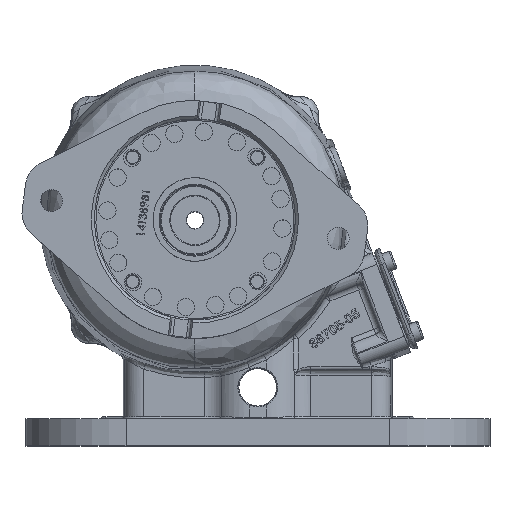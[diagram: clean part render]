
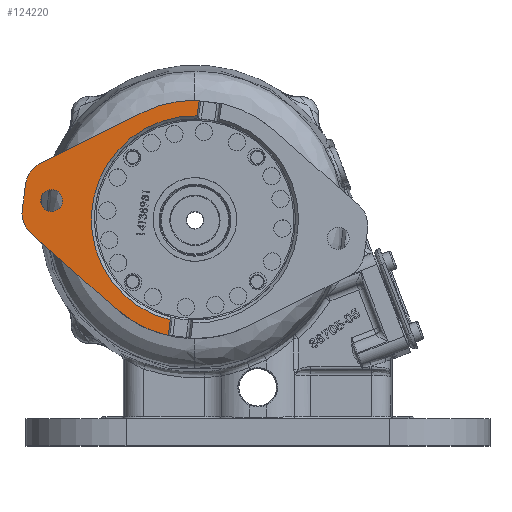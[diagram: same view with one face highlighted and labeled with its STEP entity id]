
A CAD part, top view. The second image highlights one B-rep face of the part: STEP entity #124220.
In plain terms, the highlighted planar face has unit normal (0, 0, 1) as drawn and (0, 0, -1) by its records, which use the part's own axes.
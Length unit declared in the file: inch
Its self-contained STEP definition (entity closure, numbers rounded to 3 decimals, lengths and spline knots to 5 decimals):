
#1335 = AXIS2_PLACEMENT_3D ( 'NONE', #6427, #91649, #17108 ) ;
#1634 = VECTOR ( 'NONE', #40162, 39.37008 ) ;
#2520 = CARTESIAN_POINT ( 'NONE',  ( 1.34011, -1.95635, 0.07 ) ) ;
#3539 = VECTOR ( 'NONE', #77002, 39.37008 ) ;
#4899 = CARTESIAN_POINT ( 'NONE',  ( 1.34011, 1.95635, 0.07 ) ) ;
#5635 = DIRECTION ( 'NONE',  ( -1., 0., 0. ) ) ;
#6427 = CARTESIAN_POINT ( 'NONE',  ( 0., 0., 0.07 ) ) ;
#8233 = CARTESIAN_POINT ( 'NONE',  ( 2.875, 0.25, 0.07 ) ) ;
#8587 = EDGE_CURVE ( 'NONE', #86060, #105362, #77093, .T. ) ;
#8651 = ORIENTED_EDGE ( 'NONE', *, *, #55413, .F. ) ;
#8819 = AXIS2_PLACEMENT_3D ( 'NONE', #117949, #153953, #129414 ) ;
#11550 = DIRECTION ( 'NONE',  ( 0., 0., -1. ) ) ;
#12850 = DIRECTION ( 'NONE',  ( -1., 0., 0. ) ) ;
#13288 = CARTESIAN_POINT ( 'NONE',  ( 0.225, 2.5484, 0.07 ) ) ;
#17108 = DIRECTION ( 'NONE',  ( -1., 0., 0. ) ) ;
#18037 = ORIENTED_EDGE ( 'NONE', *, *, #59734, .T. ) ;
#18630 = CIRCLE ( 'NONE', #44662, 0.2185 ) ;
#20674 = AXIS2_PLACEMENT_3D ( 'NONE', #136490, #23513, #12850 ) ;
#22136 = CARTESIAN_POINT ( 'NONE',  ( 3.43133, -0.25, 0.07 ) ) ;
#22239 = CARTESIAN_POINT ( 'NONE',  ( 2.875, 0., 0.07 ) ) ;
#23513 = DIRECTION ( 'NONE',  ( 0., 0., -1. ) ) ;
#25256 = VERTEX_POINT ( 'NONE', #35234 ) ;
#27248 = CARTESIAN_POINT ( 'NONE',  ( 1.34082, 1.95587, 0.07 ) ) ;
#28907 = ORIENTED_EDGE ( 'NONE', *, *, #118424, .T. ) ;
#29286 = CARTESIAN_POINT ( 'NONE',  ( 1.34082, -1.95587, 0.07 ) ) ;
#30479 = B_SPLINE_CURVE_WITH_KNOTS ( 'NONE', 3,
 ( #74790, #114895, #73975, #27248 ),
 .UNSPECIFIED., .F., .F.,
 ( 4, 4 ),
 ( 0., 0.00004 ),
 .UNSPECIFIED. ) ;
#32036 = VECTOR ( 'NONE', #50932, 39.37008 ) ;
#33593 = DIRECTION ( 'NONE',  ( -1., 0., 0. ) ) ;
#34167 = CARTESIAN_POINT ( 'NONE',  ( 1.34082, -1.95587, 0.07 ) ) ;
#34290 = CARTESIAN_POINT ( 'NONE',  ( 3.1861, -0.71122, 0.07 ) ) ;
#35234 = CARTESIAN_POINT ( 'NONE',  ( 0.225, 2.04868, 0.07 ) ) ;
#36579 = PLANE ( 'NONE',  #20674 ) ;
#40162 = DIRECTION ( 'NONE',  ( -0.829, -0.559, 0. ) ) ;
#42354 = EDGE_LOOP ( 'NONE', ( #8651, #93251, #67881, #28907, #117016, #18037, #156670, #44692, #62945, #115715, #46999, #157592 ) ) ;
#43926 = AXIS2_PLACEMENT_3D ( 'NONE', #8233, #120453, #33593 ) ;
#44068 = CARTESIAN_POINT ( 'NONE',  ( 1.33941, -1.95683, 0.07 ) ) ;
#44662 = AXIS2_PLACEMENT_3D ( 'NONE', #22239, #11550, #62306 ) ;
#44692 = ORIENTED_EDGE ( 'NONE', *, *, #144012, .T. ) ;
#46999 = ORIENTED_EDGE ( 'NONE', *, *, #103826, .T. ) ;
#47137 = CARTESIAN_POINT ( 'NONE',  ( 3.43133, 0.25, 0.07 ) ) ;
#47257 = FACE_BOUND ( 'NONE', #148074, .T. ) ;
#48753 = EDGE_CURVE ( 'NONE', #102630, #124348, #61397, .T. ) ;
#50282 = CARTESIAN_POINT ( 'NONE',  ( 1.34082, 1.95587, 0.07 ) ) ;
#50297 = CARTESIAN_POINT ( 'NONE',  ( 3.0935, 0., 0.07 ) ) ;
#50932 = DIRECTION ( 'NONE',  ( 0., -1., 0. ) ) ;
#54865 = CARTESIAN_POINT ( 'NONE',  ( 0.225, 2.36063, 0.07 ) ) ;
#55043 = VERTEX_POINT ( 'NONE', #96383 ) ;
#55413 = EDGE_CURVE ( 'NONE', #141602, #124348, #84702, .T. ) ;
#56913 = CIRCLE ( 'NONE', #101339, 2.37133 ) ;
#59734 = EDGE_CURVE ( 'NONE', #124798, #91064, #67134, .T. ) ;
#61002 = EDGE_CURVE ( 'NONE', #63941, #155641, #149992, .T. ) ;
#61397 = CIRCLE ( 'NONE', #1335, 2.37133 ) ;
#61579 = B_SPLINE_CURVE_WITH_KNOTS ( 'NONE', 3,
 ( #34167, #130908, #121027, #44068 ),
 .UNSPECIFIED., .F., .F.,
 ( 4, 4 ),
 ( 0., 0.00004 ),
 .UNSPECIFIED. ) ;
#62306 = DIRECTION ( 'NONE',  ( -1., 0., 0. ) ) ;
#62945 = ORIENTED_EDGE ( 'NONE', *, *, #61002, .T. ) ;
#63286 = VERTEX_POINT ( 'NONE', #130540 ) ;
#63941 = VERTEX_POINT ( 'NONE', #22136 ) ;
#66058 = CARTESIAN_POINT ( 'NONE',  ( 0., 0., 0.07 ) ) ;
#67134 = LINE ( 'NONE', #4899, #3539 ) ;
#67445 = CIRCLE ( 'NONE', #43926, 0.55633 ) ;
#67881 = ORIENTED_EDGE ( 'NONE', *, *, #147176, .F. ) ;
#70094 = EDGE_CURVE ( 'NONE', #55043, #124798, #30479, .T. ) ;
#71290 = CIRCLE ( 'NONE', #115840, 2.061 ) ;
#73492 = CARTESIAN_POINT ( 'NONE',  ( 0.225, -2.04868, 0.07 ) ) ;
#73975 = CARTESIAN_POINT ( 'NONE',  ( 1.34035, 1.95619, 0.07 ) ) ;
#74790 = CARTESIAN_POINT ( 'NONE',  ( 1.33941, 1.95683, 0.07 ) ) ;
#75024 = ORIENTED_EDGE ( 'NONE', *, *, #8587, .F. ) ;
#77002 = DIRECTION ( 'NONE',  ( 0.829, -0.559, 0. ) ) ;
#77093 = CIRCLE ( 'NONE', #82366, 0.2185 ) ;
#82366 = AXIS2_PLACEMENT_3D ( 'NONE', #104753, #117862, #5635 ) ;
#84605 = LINE ( 'NONE', #13288, #32036 ) ;
#84702 = LINE ( 'NONE', #143735, #127007 ) ;
#85765 = CARTESIAN_POINT ( 'NONE',  ( 0.225, -2.36063, 0.07 ) ) ;
#86060 = VERTEX_POINT ( 'NONE', #127320 ) ;
#88974 = CARTESIAN_POINT ( 'NONE',  ( 0., 0., 0.07 ) ) ;
#91064 = VERTEX_POINT ( 'NONE', #145067 ) ;
#91649 = DIRECTION ( 'NONE',  ( 0., 0., -1. ) ) ;
#93251 = ORIENTED_EDGE ( 'NONE', *, *, #95918, .T. ) ;
#94594 = DIRECTION ( 'NONE',  ( 0., -1., 0. ) ) ;
#95918 = EDGE_CURVE ( 'NONE', #141602, #25256, #71290, .T. ) ;
#96383 = CARTESIAN_POINT ( 'NONE',  ( 1.33941, 1.95683, 0.07 ) ) ;
#97013 = VERTEX_POINT ( 'NONE', #54865 ) ;
#97103 = DIRECTION ( 'NONE',  ( 0., -1., 0. ) ) ;
#101339 = AXIS2_PLACEMENT_3D ( 'NONE', #88974, #126646, #114373 ) ;
#102630 = VERTEX_POINT ( 'NONE', #142338 ) ;
#103826 = EDGE_CURVE ( 'NONE', #159517, #102630, #61579, .T. ) ;
#104753 = CARTESIAN_POINT ( 'NONE',  ( 2.875, 0., 0.07 ) ) ;
#105362 = VERTEX_POINT ( 'NONE', #50297 ) ;
#114373 = DIRECTION ( 'NONE',  ( -1., 0., 0. ) ) ;
#114895 = CARTESIAN_POINT ( 'NONE',  ( 1.33988, 1.95651, 0.07 ) ) ;
#115715 = ORIENTED_EDGE ( 'NONE', *, *, #156273, .T. ) ;
#115840 = AXIS2_PLACEMENT_3D ( 'NONE', #66058, #116055, #153684 ) ;
#116055 = DIRECTION ( 'NONE',  ( 0., 0., 1. ) ) ;
#117016 = ORIENTED_EDGE ( 'NONE', *, *, #70094, .T. ) ;
#117862 = DIRECTION ( 'NONE',  ( 0., 0., -1. ) ) ;
#117949 = CARTESIAN_POINT ( 'NONE',  ( 2.875, -0.25, 0.07 ) ) ;
#118424 = EDGE_CURVE ( 'NONE', #97013, #55043, #56913, .T. ) ;
#120399 = EDGE_CURVE ( 'NONE', #91064, #63286, #67445, .T. ) ;
#120453 = DIRECTION ( 'NONE',  ( 0., 0., -1. ) ) ;
#121027 = CARTESIAN_POINT ( 'NONE',  ( 1.33988, -1.95651, 0.07 ) ) ;
#124220 = ADVANCED_FACE ( 'NONE', ( #47257, #135697 ), #36579, .T. ) ;
#124348 = VERTEX_POINT ( 'NONE', #85765 ) ;
#124798 = VERTEX_POINT ( 'NONE', #50282 ) ;
#126646 = DIRECTION ( 'NONE',  ( 0., 0., -1. ) ) ;
#127007 = VECTOR ( 'NONE', #94594, 39.37008 ) ;
#127320 = CARTESIAN_POINT ( 'NONE',  ( 2.6565, 0., 0.07 ) ) ;
#129414 = DIRECTION ( 'NONE',  ( -1., 0., 0. ) ) ;
#130540 = CARTESIAN_POINT ( 'NONE',  ( 3.43133, 0.25, 0.07 ) ) ;
#130908 = CARTESIAN_POINT ( 'NONE',  ( 1.34035, -1.95619, 0.07 ) ) ;
#134077 = EDGE_CURVE ( 'NONE', #105362, #86060, #18630, .T. ) ;
#135697 = FACE_OUTER_BOUND ( 'NONE', #42354, .T. ) ;
#136490 = CARTESIAN_POINT ( 'NONE',  ( 0., 0., 0.07 ) ) ;
#141602 = VERTEX_POINT ( 'NONE', #73492 ) ;
#142338 = CARTESIAN_POINT ( 'NONE',  ( 1.33941, -1.95683, 0.07 ) ) ;
#143735 = CARTESIAN_POINT ( 'NONE',  ( 0.225, -1.7234, 0.07 ) ) ;
#144012 = EDGE_CURVE ( 'NONE', #63286, #63941, #145449, .T. ) ;
#145067 = CARTESIAN_POINT ( 'NONE',  ( 3.1861, 0.71122, 0.07 ) ) ;
#145449 = LINE ( 'NONE', #47137, #149603 ) ;
#146766 = ORIENTED_EDGE ( 'NONE', *, *, #134077, .F. ) ;
#147176 = EDGE_CURVE ( 'NONE', #97013, #25256, #84605, .T. ) ;
#148074 = EDGE_LOOP ( 'NONE', ( #75024, #146766 ) ) ;
#149603 = VECTOR ( 'NONE', #97103, 39.37008 ) ;
#149992 = CIRCLE ( 'NONE', #8819, 0.55633 ) ;
#152359 = LINE ( 'NONE', #2520, #1634 ) ;
#153684 = DIRECTION ( 'NONE',  ( -1., 0., 0. ) ) ;
#153953 = DIRECTION ( 'NONE',  ( 0., 0., -1. ) ) ;
#155641 = VERTEX_POINT ( 'NONE', #34290 ) ;
#156273 = EDGE_CURVE ( 'NONE', #155641, #159517, #152359, .T. ) ;
#156670 = ORIENTED_EDGE ( 'NONE', *, *, #120399, .T. ) ;
#157592 = ORIENTED_EDGE ( 'NONE', *, *, #48753, .T. ) ;
#159517 = VERTEX_POINT ( 'NONE', #29286 ) ;
